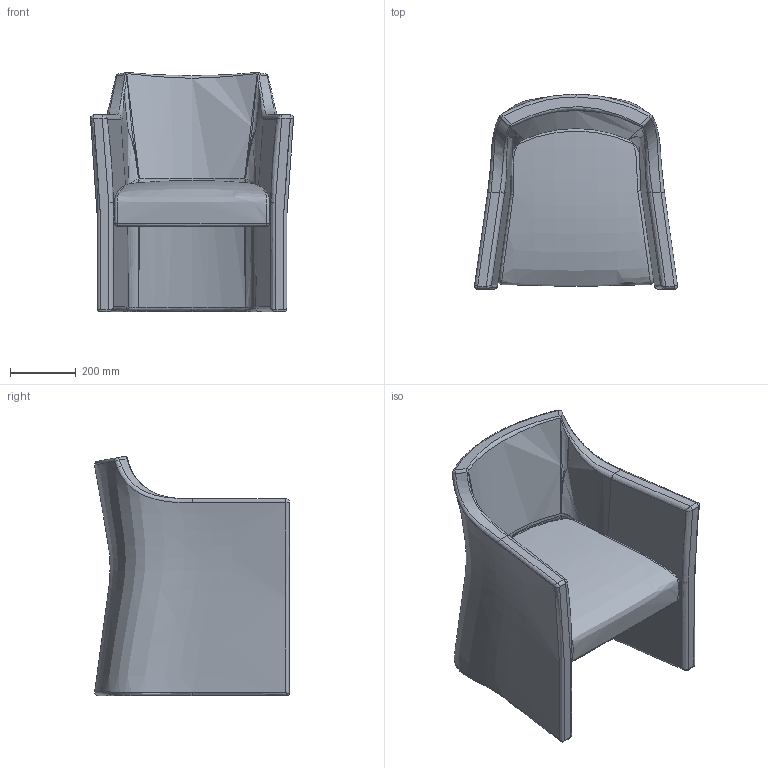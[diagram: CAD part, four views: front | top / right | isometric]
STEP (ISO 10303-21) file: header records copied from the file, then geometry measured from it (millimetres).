
FILE_DESCRIPTION(/* description */ (''),/* implementation_level */ '2;1');
FILE_NAME(/* name */ 'KINOSH~1',/* time_stamp */ '2019-07-19T11:11:32+09:00',/* author */ (''),/* organization */ (''),/* preprocessor_version */ 'ST-DEVELOPER v15',/* originating_system */ '',/* authorisation */ '');
FILE_SCHEMA (('AUTOMOTIVE_DESIGN'));
Length unit declared in the file: millimetre
Products named in the file (1): Document
Bounding box: 620.03 x 594.83 x 729.77 mm (x, y, z)
Surface area: 2586983.9 mm2 (no closed solid volume)
Topology: 0 solids, 4 shells, 122 faces, 337 edges, 165 vertices
Faces by surface type: bspline 111, plane 11
Entity records: 31818 total; most frequent: CARTESIAN_POINT 30072, ORIENTED_EDGE 559, EDGE_CURVE 318, B_SPLINE_CURVE_WITH_KNOTS 252, VERTEX_POINT 165, ADVANCED_FACE 122, FACE_OUTER_BOUND 122, EDGE_LOOP 122
